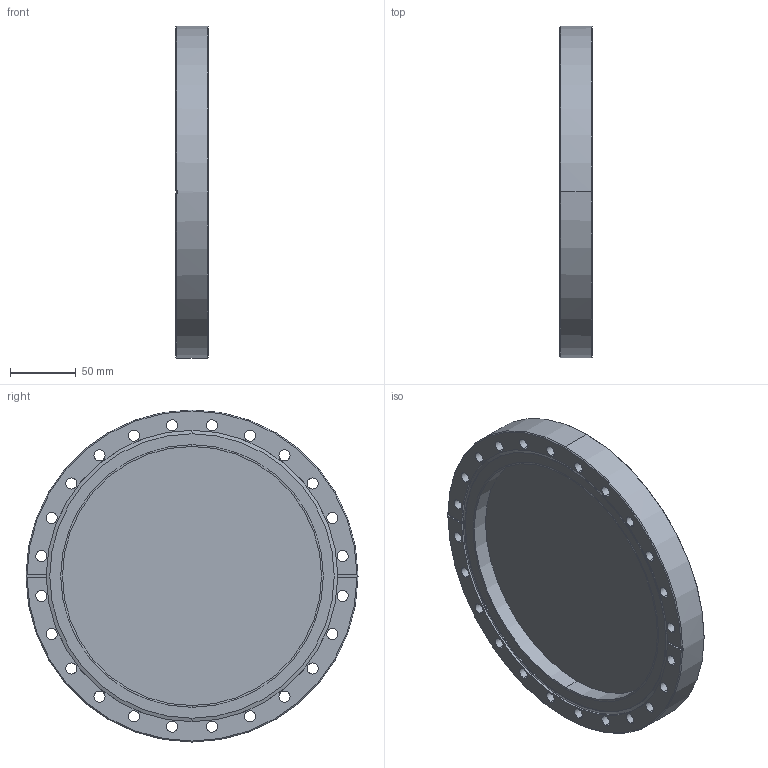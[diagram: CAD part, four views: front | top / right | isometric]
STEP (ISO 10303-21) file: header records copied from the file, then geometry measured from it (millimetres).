
FILE_DESCRIPTION (( 'STEP AP203' ), '1' );
FILE_NAME ('112636.stp', '2022-04-27T21:31:01', ( '' ), ( '' ), 'SwSTEP 2.0', 'SolidWorks 2012', '' );
FILE_SCHEMA (( 'CONFIG_CONTROL_DESIGN' ));
Length unit declared in the file: inch
Products named in the file (1): 112636
Bounding box: 24.64 x 253.24 x 253.24 mm (x, y, z)
Volume: 716253.1 mm3; surface area: 157883.8 mm2
Topology: 1 solids, 1 shells, 87 faces, 234 edges, 153 vertices
Faces by surface type: cylinder 60, plane 14, cone 11, bspline 2
Entity records: 2998 total; most frequent: DIRECTION 551, CARTESIAN_POINT 505, ORIENTED_EDGE 468, EDGE_CURVE 234, AXIS2_PLACEMENT_3D 231, VERTEX_POINT 153, CIRCLE 145, EDGE_LOOP 139
